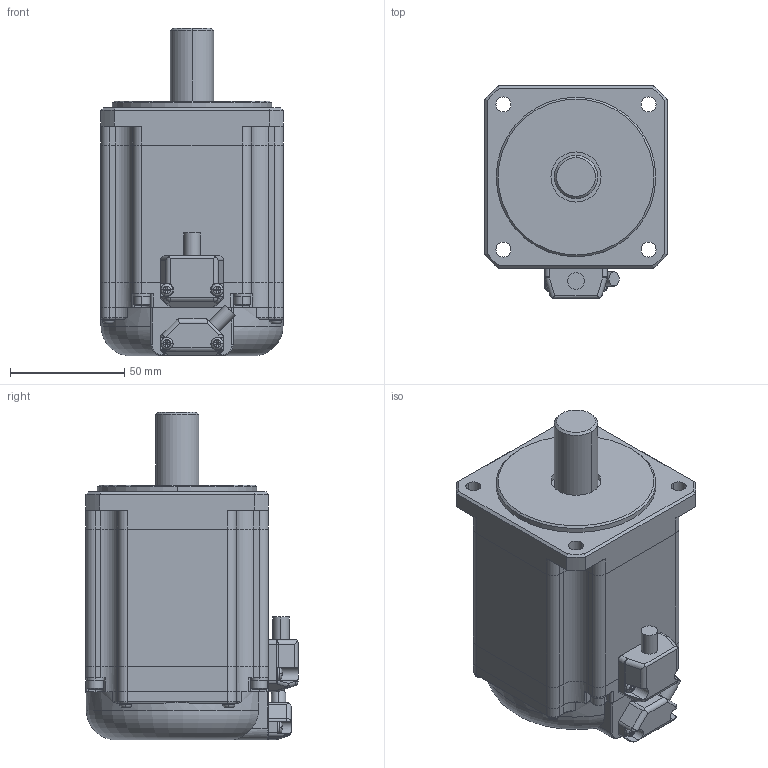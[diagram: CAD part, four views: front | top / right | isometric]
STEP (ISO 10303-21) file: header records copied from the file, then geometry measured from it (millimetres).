
FILE_DESCRIPTION(('Creo Elements/Direct Modeling STEP Export'),'2;1');
FILE_NAME('TS4614_BK無.stp','2016-12-22T16:41:38',(''),(''),'Creo Elements/Direct Modeling STEP processor for AP214 (Solid Model)','Creo Elements/Direct Modeling 17.0F 20-Aug-2012 (C) Parametric Technology GmbH','');
FILE_SCHEMA(('AUTOMOTIVE_DESIGN { 1 0 10303 214 1 1 1 1 }'));
Length unit declared in the file: millimetre
Products named in the file (2): TS4614N1000; ﾓｰﾀ
Assembly tree (1 placements, depth 2):
  ﾓｰﾀ
    TS4614N1000
Bounding box: 80 x 93 x 143.7 mm (x, y, z)
Volume: 630126.5 mm3; surface area: 48934.5 mm2
Topology: 1 solids, 1 shells, 639 faces, 1503 edges, 866 vertices
Faces by surface type: plane 318, cylinder 215, cone 40, sphere 29, torus 27, bspline 10
Entity records: 19098 total; most frequent: CARTESIAN_POINT 4453, ORIENTED_EDGE 2964, DIRECTION 2782, EDGE_CURVE 1482, AXIS2_PLACEMENT_3D 1076, VERTEX_POINT 866, EDGE_LOOP 668, FACE_OUTER_BOUND 639
